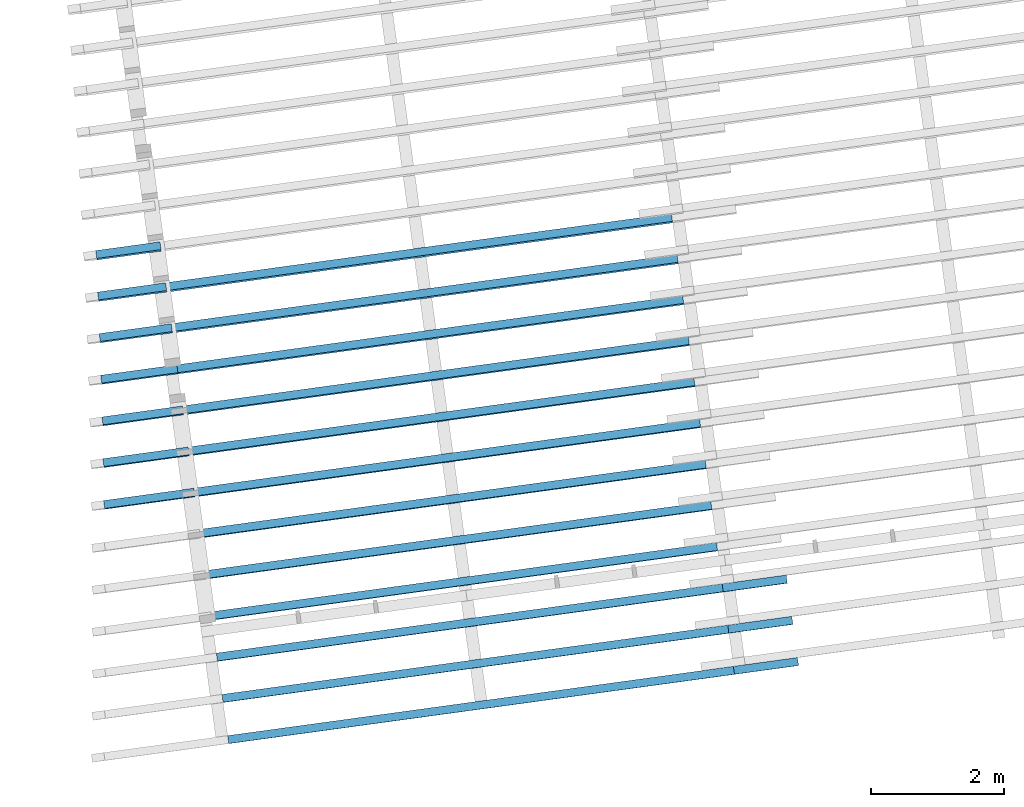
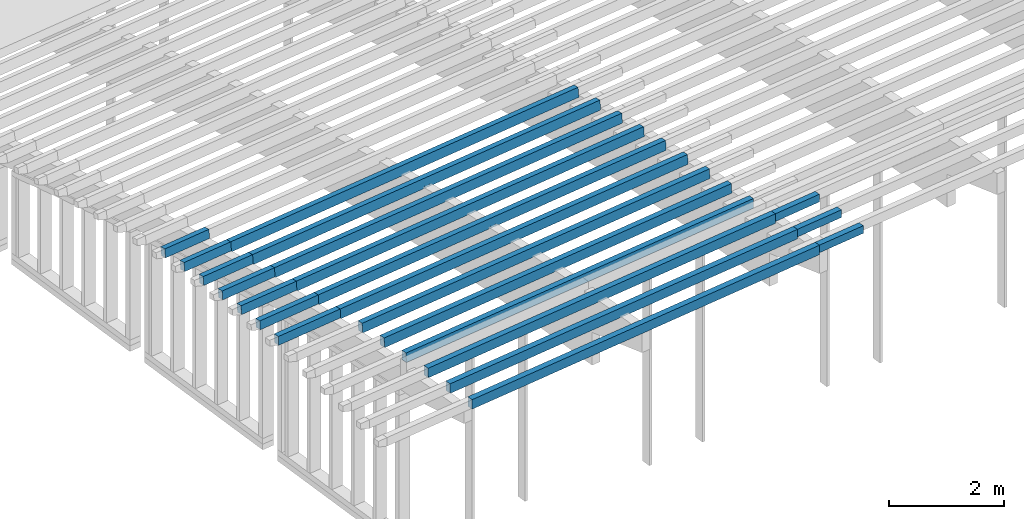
# One storey, part 6 of 18: 22 building element parts, 13 elements without a shape of their own.
"""IFC2X3 building model written with IfcOpenShell, lengths in metres."""

from ifc_helpers import new_model, entity, si_unit, converted_unit, derived_unit, money_unit, direction, frame, origin_with_axes, place, context, subcontext, project, spatial, faceted_brep, material, type_object, element, aggregate, save


model = new_model("IFC2X3")

# Units and contexts
model_context = context("Model", 3, precision=1e-05, world=origin_with_axes(), true_north=direction((0.0, 1.0)))
body_context = subcontext(model_context, "Body", "Model", "MODEL_VIEW")
ifc_project = project(units=[si_unit("LENGTHUNIT", "METRE"), si_unit("AREAUNIT", "SQUARE_METRE"), si_unit("VOLUMEUNIT", "CUBIC_METRE"), converted_unit("PLANEANGLEUNIT", "DEGREE", entity("IfcPlaneAngleMeasure", 0.0174532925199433), si_unit("PLANEANGLEUNIT", "RADIAN"), dimensions=[0, 0, 0, 0, 0, 0, 0]), money_unit("EUR"), converted_unit("TIMEUNIT", "Year", entity("IfcTimeMeasure", 31557600.0), si_unit("TIMEUNIT", "SECOND"), dimensions=[0, 0, 1, 0, 0, 0, 0]), si_unit("MASSUNIT", "GRAM", prefix="KILO"), si_unit("THERMODYNAMICTEMPERATUREUNIT", "DEGREE_CELSIUS"), si_unit("LUMINOUSINTENSITYUNIT", "LUMEN"), si_unit("ENERGYUNIT", "JOULE", prefix="MEGA"), derived_unit("THERMALCONDUCTANCEUNIT", [(si_unit("POWERUNIT", "WATT"), 1), (si_unit("LENGTHUNIT", "METRE"), -1), (si_unit("THERMODYNAMICTEMPERATUREUNIT", "KELVIN"), -1)]), derived_unit("SPECIFICHEATCAPACITYUNIT", [(si_unit("ENERGYUNIT", "JOULE"), 1), (si_unit("MASSUNIT", "GRAM", prefix="KILO"), -1), (si_unit("THERMODYNAMICTEMPERATUREUNIT", "KELVIN"), -1)]), derived_unit("MASSDENSITYUNIT", [(si_unit("MASSUNIT", "GRAM", prefix="KILO"), 1), (si_unit("VOLUMEUNIT", "CUBIC_METRE"), -1)])], contexts=[model_context])

# Site, building, storey
site_placement = place(None, origin_with_axes())
site = spatial("IfcSite", under=ifc_project, at=site_placement, Name="Gelände", CompositionType="ELEMENT")
building_placement = place(site_placement, origin_with_axes())
building = spatial("IfcBuilding", under=site, at=building_placement, Name="Gebäude", CompositionType="ELEMENT")
storey_placement = place(building_placement, frame((0.0, 0.0, 5.5), z_axis=(0.0, 0.0, 1.0), x_axis=(1.0, 0.0, 0.0)))
storey = spatial("IfcBuildingStorey", under=building, at=storey_placement, Name="OG", CompositionType="ELEMENT", Elevation=5.5)

# Beam, building element part
beam_type_1 = type_object("IfcBeamType", Name="Verschiedene Strukturen - 4 Segmente - 120 x 200 x 10342 (970+7659+1523+190)", PredefinedType="NOTDEFINED")
beam_1_placement = place(storey_placement, frame((95.08032866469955, -148.9629135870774, 4.912074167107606), z_axis=(0.0, 0.0, 1.0), x_axis=(-0.1357111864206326, 0.9907484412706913, 0.0)))
beam_1 = element("IfcBeam", 1, at=beam_1_placement, inside=storey, type_object=beam_type_1, Name="Unterzug-031")
ifc_material = material(Name="Bauholz")
building_element_part_1_placement = place(beam_1_placement, origin_with_axes())
building_element_part_1 = element("IfcBuildingElementPart", 2, at=building_element_part_1_placement, material=ifc_material, Name="Bauholz", context=body_context, shape_type="Brep", body=[
    faceted_brep([(0.05992836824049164, 8.629156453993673, -0.002930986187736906), (0.05992863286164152, 4.852805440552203, -0.002930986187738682), (0.05211229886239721, 4.852805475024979, -0.1627421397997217), (0.05211229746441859, 4.73280547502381, -0.1627421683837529), (0.05992810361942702, 4.732805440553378, -0.002930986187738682), (0.05992836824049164, 0.9700000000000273, -0.002930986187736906), (0.05015841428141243, 0.9700000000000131, -0.2026922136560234), (0.05015841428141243, 8.629156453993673, -0.2026922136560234), (-0.05992836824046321, 8.629156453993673, 0.002930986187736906), (-0.05992810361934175, 4.852803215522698, 0.00293098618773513), (-0.05992863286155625, 4.732803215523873, 0.00293098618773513), (-0.05992836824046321, 0.9699999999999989, 0.002930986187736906), (0.05141115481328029, 4.852805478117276, -0.1627041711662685), (0.05141062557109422, 4.732805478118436, -0.1627041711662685), (-0.06969832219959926, 0.9700000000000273, -0.1968302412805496), (-0.06969832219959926, 8.629156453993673, -0.1968302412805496), (-0.06774441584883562, 4.73280324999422, -0.1568797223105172), (-0.06774441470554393, 4.852803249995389, -0.1568796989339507), (-0.06743742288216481, 4.852803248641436, -0.1568932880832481), (-0.06743795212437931, 4.732803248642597, -0.1568932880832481)], [[[0, 1, 2, 3, 4, 5, 6, 7]], [[5, 4, 1, 0, 8, 9, 10, 11]], [[12, 2, 1]], [[13, 3, 2, 12]], [[13, 4, 3]], [[11, 14, 6, 5]], [[7, 6, 14, 15]], [[7, 15, 8, 0]], [[12, 1, 4, 13]], [[14, 11, 10, 16, 17, 9, 8, 15]], [[9, 18, 19, 10]], [[19, 16, 10]], [[17, 16, 19, 18]], [[18, 9, 17]]]),
])
aggregate(beam_1, [building_element_part_1])

beam_type_2 = type_object("IfcBeamType", Name="Verschiedene Strukturen - 4 Segmente - 120 x 200 x 10261 (970+7659+1442+190)", PredefinedType="NOTDEFINED")
beam_2_placement = place(storey_placement, frame((94.99560086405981, -148.3443651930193, 4.878264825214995), z_axis=(0.0, 0.0, 1.0), x_axis=(-0.1357111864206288, 0.9907484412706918, 0.0)))
beam_2 = element("IfcBeam", 3, at=beam_2_placement, inside=storey, type_object=beam_type_2, Name="Unterzug-031")
building_element_part_2_placement = place(beam_2_placement, origin_with_axes())
building_element_part_2 = element("IfcBuildingElementPart", 4, at=building_element_part_2_placement, material=ifc_material, Name="Bauholz", context=body_context, shape_type="Brep", body=[
    faceted_brep([(0.0598943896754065, 8.629156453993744, -0.00355838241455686), (0.05989465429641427, 4.85280543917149, -0.003558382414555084), (0.05040524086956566, 4.852805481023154, -0.1632789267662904), (0.05040523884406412, 4.732805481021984, -0.1632789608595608), (0.0598941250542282, 4.732805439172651, -0.003558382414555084), (0.0598943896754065, 0.9700000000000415, -0.00355838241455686), (0.04803311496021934, 0.9700000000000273, -0.2032063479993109), (0.04803311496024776, 8.629156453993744, -0.2032063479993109), (-0.05989438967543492, 8.629156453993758, 0.00355838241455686), (-0.05989412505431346, 4.852803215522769, 0.003558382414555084), (-0.05989465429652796, 4.732803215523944, 0.003558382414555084), (-0.05989438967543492, 0.9700000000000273, 0.00355838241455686), (0.04970372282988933, 4.852805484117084, -0.1632335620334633), (0.04970319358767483, 4.732805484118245, -0.1632335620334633), (-0.07175566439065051, 0.9700000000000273, -0.1960895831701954), (-0.07175566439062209, 8.629156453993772, -0.1960895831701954), (-0.06938354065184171, 4.732803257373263, -0.1561621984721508), (-0.06938353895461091, 4.852803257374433, -0.1561621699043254), (-0.06897938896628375, 4.852803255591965, -0.1561840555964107), (-0.06897991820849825, 4.732803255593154, -0.1561840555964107)], [[[0, 1, 2, 3, 4, 5, 6, 7]], [[5, 4, 1, 0, 8, 9, 10, 11]], [[12, 2, 1]], [[13, 3, 2, 12]], [[13, 4, 3]], [[11, 14, 6, 5]], [[7, 6, 14, 15]], [[7, 15, 8, 0]], [[12, 1, 4, 13]], [[14, 11, 10, 16, 17, 9, 8, 15]], [[9, 18, 19, 10]], [[19, 16, 10]], [[17, 16, 19, 18]], [[18, 9, 17]]]),
])
aggregate(beam_2, [building_element_part_2])

# Beam, building element parts
beam_type_3 = type_object("IfcBeamType", Name="Verschiedene Strukturen - 4 Segmente - 120 x 200 x 10184 (970+7659+1365+190)", PredefinedType="NOTDEFINED")
beam_3_placement = place(storey_placement, frame((94.91092517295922, -147.7261972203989, 4.837969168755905), z_axis=(0.0, 0.0, 1.0), x_axis=(-0.1357111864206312, 0.9907484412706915, 0.0)))
beam_3 = element("IfcBeam", 5, at=beam_3_placement, inside=storey, type_object=beam_type_3, Name="Unterzug-031")
building_element_part_3_placement = place(beam_3_placement, origin_with_axes())
building_element_part_3 = element("IfcBuildingElementPart", 6, at=building_element_part_3_placement, material=ifc_material, Name="Bauholz", context=body_context, shape_type="Brep", body=[
    faceted_brep([(0.05985747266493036, 8.62915645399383, -0.004133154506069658), (0.05985773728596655, 4.852805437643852, -0.004133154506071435), (0.04883556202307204, 4.852805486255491, -0.1637554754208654), (0.04883555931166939, 4.73280548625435, -0.1637555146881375), (0.05985720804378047, 4.732805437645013, -0.004133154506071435), (0.05985747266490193, 0.9699999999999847, -0.004133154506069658), (0.04608029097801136, 0.9699999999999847, -0.2036580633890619), (0.04608029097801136, 8.62915645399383, -0.2036580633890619), (-0.05985747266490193, 8.629156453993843, 0.004133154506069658), (-0.05985720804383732, 4.852803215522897, 0.004133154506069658), (-0.05985773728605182, 4.732803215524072, 0.004133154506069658), (-0.05985747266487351, 0.9699999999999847, 0.004133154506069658), (0.04809246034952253, 4.852805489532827, -0.1637000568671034), (0.04809193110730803, 4.732805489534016, -0.1637000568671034), (-0.07363465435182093, 0.9699999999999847, -0.1953917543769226), (-0.0736346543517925, 8.62915645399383, -0.1953917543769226), (-0.07087932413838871, 4.732803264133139, -0.1554883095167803), (-0.07087932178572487, 4.852803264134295, -0.1554882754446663), (-0.07061557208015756, 4.852803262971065, -0.1555053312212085), (-0.07061610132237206, 4.73280326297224, -0.1555053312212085)], [[[0, 1, 2, 3, 4, 5, 6, 7]], [[5, 4, 1, 0, 8, 9, 10, 11]], [[12, 2, 1]], [[13, 3, 2, 12]], [[13, 4, 3]], [[11, 14, 6, 5]], [[7, 6, 14, 15]], [[7, 15, 8, 0]], [[12, 1, 4, 13]], [[14, 11, 10, 16, 17, 9, 8, 15]], [[9, 18, 19, 10]], [[19, 16, 10]], [[17, 16, 19, 18]], [[18, 9, 17]]]),
])
building_element_part_4_placement = place(beam_3_placement, origin_with_axes())
building_element_part_4 = element("IfcBuildingElementPart", 7, at=building_element_part_4_placement, material=ifc_material, Name="Bauholz", context=body_context, shape_type="Brep", body=[
    faceted_brep([(-0.05985747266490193, 8.629156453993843, 0.004133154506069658), (0.05985747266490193, 8.629156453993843, -0.004133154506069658), (0.05985747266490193, 9.993783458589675, -0.004133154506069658), (-0.05985747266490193, 9.993783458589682, 0.004133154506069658), (-0.07225693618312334, 8.629156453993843, -0.1754392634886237), (0.04745800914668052, 8.629156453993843, -0.183705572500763), (0.0474580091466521, 9.993783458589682, -0.183705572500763), (-0.07225693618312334, 9.993783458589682, -0.1754392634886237)], [[[0, 1, 2, 3]], [[4, 5, 1, 0]], [[1, 5, 6, 2]], [[7, 3, 2, 6]], [[4, 0, 3, 7]], [[5, 4, 7, 6]]]),
])
aggregate(beam_3, [building_element_part_3, building_element_part_4])

beam_type_4 = type_object("IfcBeamType", Name="Verschiedene Strukturen - 4 Segmente - 120 x 200 x 10110 (970+7659+1291+190)", PredefinedType="NOTDEFINED")
beam_4_placement = place(storey_placement, frame((94.82630850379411, -147.1084601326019, 4.791438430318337), z_axis=(0.0, 0.0, 1.0), x_axis=(-0.1357111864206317, 0.9907484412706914, 0.0)))
beam_4 = element("IfcBeam", 8, at=beam_4_placement, inside=storey, type_object=beam_type_4, Name="Unterzug-031")
building_element_part_5_placement = place(beam_4_placement, origin_with_axes())
building_element_part_5 = element("IfcBuildingElementPart", 9, at=building_element_part_5_placement, material=ifc_material, Name="Bauholz", context=body_context, shape_type="Brep", body=[
    faceted_brep([(0.05980589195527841, 8.629156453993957, -0.004822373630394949), (0.05980615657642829, 4.852805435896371, -0.004822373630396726), (0.04694613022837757, 4.852805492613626, -0.1643059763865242), (0.04694612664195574, 4.732805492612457, -0.1643060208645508), (0.05980562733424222, 4.732805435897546, -0.004822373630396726), (0.05980589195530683, 0.9699999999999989, -0.004822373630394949), (0.04373131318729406, 0.9699999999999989, -0.2041753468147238), (0.04373131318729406, 8.629156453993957, -0.2041753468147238), (-0.05980589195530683, 8.629156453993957, 0.004822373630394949), (-0.05980562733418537, 4.852803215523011, 0.004822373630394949), (-0.05980615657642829, 4.732803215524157, 0.004822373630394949), (-0.05980589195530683, 0.9700000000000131, 0.004822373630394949), (0.04645001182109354, 4.852805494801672, -0.1642639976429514), (0.04644948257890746, 4.732805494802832, -0.1642639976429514), (-0.07588047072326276, 0.9699999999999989, -0.1945305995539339), (-0.07588047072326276, 8.629156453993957, -0.1945305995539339), (-0.07266578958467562, 4.732803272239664, -0.1546629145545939), (-0.07266578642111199, 4.852803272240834, -0.1546628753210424), (-0.07213794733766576, 4.852803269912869, -0.1547022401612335), (-0.07213847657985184, 4.732803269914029, -0.1547022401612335)], [[[0, 1, 2, 3, 4, 5, 6, 7]], [[5, 4, 1, 0, 8, 9, 10, 11]], [[12, 2, 1]], [[13, 3, 2, 12]], [[13, 4, 3]], [[11, 14, 6, 5]], [[7, 6, 14, 15]], [[7, 15, 8, 0]], [[12, 1, 4, 13]], [[14, 11, 10, 16, 17, 9, 8, 15]], [[9, 18, 19, 10]], [[19, 16, 10]], [[17, 16, 19, 18]], [[18, 9, 17]]]),
])
building_element_part_6_placement = place(beam_4_placement, origin_with_axes())
building_element_part_6 = element("IfcBuildingElementPart", 10, at=building_element_part_6_placement, material=ifc_material, Name="Bauholz", context=body_context, shape_type="Brep", body=[
    faceted_brep([(-0.05980589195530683, 8.629156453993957, 0.004822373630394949), (0.05980589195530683, 8.629156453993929, -0.004822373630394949), (0.05980589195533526, 9.919935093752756, -0.004822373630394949), (-0.05980589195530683, 9.919935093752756, 0.004822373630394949), (-0.0742730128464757, 8.629156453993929, -0.1745953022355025), (0.04533877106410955, 8.629156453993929, -0.1842400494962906), (0.04533877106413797, 9.919935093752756, -0.1842400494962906), (-0.07427301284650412, 9.919935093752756, -0.1745953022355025)], [[[0, 1, 2, 3]], [[4, 5, 1, 0]], [[1, 5, 6, 2]], [[7, 3, 2, 6]], [[4, 0, 3, 7]], [[5, 4, 7, 6]]]),
])
aggregate(beam_4, [building_element_part_5, building_element_part_6])

beam_type_5 = type_object("IfcBeamType", Name="Verschiedene Strukturen - 4 Segmente - 120 x 200 x 10040 (970+7659+1220+190)", PredefinedType="NOTDEFINED")
beam_5_placement = place(storey_placement, frame((94.74175862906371, -146.4912106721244, 4.738673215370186), z_axis=(0.0, 0.0, 1.0), x_axis=(-0.1357111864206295, 0.9907484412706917, 0.0)))
beam_5 = element("IfcBeam", 11, at=beam_5_placement, inside=storey, type_object=beam_type_5, Name="Unterzug-031")
building_element_part_7_placement = place(beam_5_placement, origin_with_axes())
building_element_part_7 = element("IfcBuildingElementPart", 12, at=building_element_part_7_placement, material=ifc_material, Name="Bauholz", context=body_context, shape_type="Brep", body=[
    faceted_brep([(-0.05976153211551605, 8.629156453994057, 0.005344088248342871), (0.05976153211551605, 8.629156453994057, -0.005344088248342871), (0.05976153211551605, 9.849566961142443, -0.005344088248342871), (-0.05976153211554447, 9.849566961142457, 0.005344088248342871), (-0.07579379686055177, 8.629156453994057, -0.173940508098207), (0.04372926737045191, 8.629156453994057, -0.1846286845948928), (0.04372926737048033, 9.849566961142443, -0.1846286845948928), (-0.07579379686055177, 9.849566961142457, -0.173940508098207)], [[[0, 1, 2, 3]], [[4, 5, 1, 0]], [[1, 5, 6, 2]], [[7, 3, 2, 6]], [[4, 0, 3, 7]], [[5, 4, 7, 6]]]),
])
building_element_part_8_placement = place(beam_5_placement, origin_with_axes())
building_element_part_8 = element("IfcBuildingElementPart", 13, at=building_element_part_8_placement, material=ifc_material, Name="Bauholz", context=body_context, shape_type="Brep", body=[
    faceted_brep([(0.05976153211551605, 8.629156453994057, -0.005344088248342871), (0.05976179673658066, 4.852805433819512, -0.005344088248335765), (0.04551040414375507, 4.85280549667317, -0.1647107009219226), (0.0455103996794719, 4.732805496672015, -0.1647107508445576), (0.05976126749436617, 4.732805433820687, -0.005344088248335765), (0.05976153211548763, 0.9699999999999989, -0.005344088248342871), (0.04194790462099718, 0.9699999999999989, -0.204549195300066), (0.04194790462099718, 8.629156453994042, -0.204549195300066), (-0.05976153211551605, 8.629156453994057, 0.005344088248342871), (-0.05976126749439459, 4.85280321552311, 0.005344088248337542), (-0.05976179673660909, 4.732803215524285, 0.005344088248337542), (-0.05976153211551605, 0.9699999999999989, 0.005344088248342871), (0.04474307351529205, 4.852805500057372, -0.1646377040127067), (0.04474254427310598, 4.732805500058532, -0.1646377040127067), (-0.0775751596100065, 0.9699999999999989, -0.1938610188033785), (-0.0775751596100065, 8.629156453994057, -0.1938610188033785), (-0.07401259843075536, 4.732803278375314, -0.1540218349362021), (-0.07401259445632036, 4.85280327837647, -0.1540217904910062), (-0.07368400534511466, 4.852803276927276, -0.1540495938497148), (-0.07368453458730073, 4.73280327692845, -0.1540495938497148)], [[[0, 1, 2, 3, 4, 5, 6, 7]], [[5, 4, 1, 0, 8, 9, 10, 11]], [[12, 2, 1]], [[13, 3, 2, 12]], [[13, 4, 3]], [[11, 14, 6, 5]], [[7, 6, 14, 15]], [[7, 15, 8, 0]], [[12, 1, 4, 13]], [[14, 11, 10, 16, 17, 9, 8, 15]], [[9, 18, 19, 10]], [[19, 16, 10]], [[17, 16, 19, 18]], [[18, 9, 17]]]),
])
aggregate(beam_5, [building_element_part_7, building_element_part_8])

beam_type_6 = type_object("IfcBeamType", Name="Verschiedene Strukturen - 4 Segmente - 120 x 200 x 9973 (970+7659+1154+190)", PredefinedType="NOTDEFINED")
beam_6_placement = place(storey_placement, frame((94.65728644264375, -145.8745283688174, 4.679531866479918), z_axis=(0.0, 0.0, 1.0), x_axis=(-0.1357111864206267, 0.9907484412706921, 0.0)))
beam_6 = element("IfcBeam", 14, at=beam_6_placement, inside=storey, type_object=beam_type_6, Name="Unterzug-031")
building_element_part_9_placement = place(beam_6_placement, origin_with_axes())
building_element_part_9 = element("IfcBuildingElementPart", 15, at=building_element_part_9_placement, material=ifc_material, Name="Bauholz", context=body_context, shape_type="Brep", body=[
    faceted_brep([(-0.05970437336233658, 8.629156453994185, 0.005948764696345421), (0.05970437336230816, 8.62915645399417, -0.005948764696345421), (0.05970437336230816, 9.782671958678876, -0.005948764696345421), (-0.05970437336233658, 9.782671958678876, 0.005948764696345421), (-0.07755066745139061, 8.629156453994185, -0.1731643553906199), (0.04185807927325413, 8.629156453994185, -0.1850618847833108), (0.04185807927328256, 9.782671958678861, -0.1850618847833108), (-0.07755066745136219, 9.782671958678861, -0.1731643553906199)], [[[0, 1, 2, 3]], [[4, 5, 1, 0]], [[1, 5, 6, 2]], [[7, 3, 2, 6]], [[4, 0, 3, 7]], [[5, 4, 7, 6]]]),
])
building_element_part_10_placement = place(beam_6_placement, origin_with_axes())
building_element_part_10 = element("IfcBuildingElementPart", 16, at=building_element_part_10_placement, material=ifc_material, Name="Bauholz", context=body_context, shape_type="Brep", body=[
    faceted_brep([(0.05970437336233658, 8.629156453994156, -0.005948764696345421), (0.05970463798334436, 4.852805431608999, -0.005948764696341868), (0.04384075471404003, 4.852805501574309, -0.1651628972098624), (0.04384074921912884, 4.732805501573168, -0.1651629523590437), (0.05970410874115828, 4.73280543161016, -0.005948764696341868), (0.05970437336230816, 0.9699999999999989, -0.005948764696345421), (0.03987515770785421, 0.9699999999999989, -0.2049633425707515), (0.03987515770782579, 8.629156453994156, -0.2049633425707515), (-0.05970437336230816, 8.629156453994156, 0.005948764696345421), (-0.05970410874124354, 4.852803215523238, 0.005948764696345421), (-0.05970463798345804, 4.732803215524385, 0.005948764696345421), (-0.05970437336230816, 0.9700000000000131, 0.005948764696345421), (0.0430833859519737, 4.852805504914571, -0.1650831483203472), (0.0430828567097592, 4.732805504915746, -0.1650831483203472), (-0.07953358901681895, 0.9699999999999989, -0.1930658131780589), (-0.07953358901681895, 8.629156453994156, -0.1930658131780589), (-0.0755679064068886, 4.73280328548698, -0.1532645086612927), (-0.07556790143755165, 4.852803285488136, -0.1532644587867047), (-0.07528889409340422, 4.852803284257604, -0.1532910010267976), (-0.07528942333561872, 4.732803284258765, -0.1532910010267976)], [[[0, 1, 2, 3, 4, 5, 6, 7]], [[5, 4, 1, 0, 8, 9, 10, 11]], [[12, 2, 1]], [[13, 3, 2, 12]], [[13, 4, 3]], [[11, 14, 6, 5]], [[7, 6, 14, 15]], [[7, 15, 8, 0]], [[12, 1, 4, 13]], [[14, 11, 10, 16, 17, 9, 8, 15]], [[9, 18, 19, 10]], [[19, 16, 10]], [[17, 16, 19, 18]], [[18, 9, 17]]]),
])
aggregate(beam_6, [building_element_part_9, building_element_part_10])

beam_type_7 = type_object("IfcBeamType", Name="Verschiedene Strukturen - 4 Segmente - 120 x 200 x 9909 (970+7659+1090+190)", PredefinedType="NOTDEFINED")
beam_7_placement = place(storey_placement, frame((94.57289909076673, -145.2584653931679, 4.614089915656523), z_axis=(0.0, 0.0, 1.0), x_axis=(-0.135711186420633, 0.9907484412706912, 0.0)))
beam_7 = element("IfcBeam", 17, at=beam_7_placement, inside=storey, type_object=beam_type_7, Name="Unterzug-031")
building_element_part_11_placement = place(beam_7_placement, origin_with_axes())
building_element_part_11 = element("IfcBuildingElementPart", 18, at=building_element_part_11_placement, material=ifc_material, Name="Bauholz", context=body_context, shape_type="Brep", body=[
    faceted_brep([(0.05963765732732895, 8.629139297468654, -0.006584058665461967), (0.05963792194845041, 4.852805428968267, -0.006584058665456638), (0.04207993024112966, 4.85280550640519, -0.1656199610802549), (0.04207992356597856, 4.732805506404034, -0.1656200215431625), (0.05963739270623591, 4.732805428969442, -0.006584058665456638), (0.05963765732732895, 0.9699999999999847, -0.006584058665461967), (0.03769079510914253, 0.9699999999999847, -0.2053762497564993), (0.03769079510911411, 8.629139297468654, -0.2053762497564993), (-0.05963765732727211, 8.629139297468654, 0.006584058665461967), (-0.05963739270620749, 4.852803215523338, 0.006584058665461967), (-0.05963792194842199, 4.732803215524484, 0.006584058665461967), (-0.05963765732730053, 0.9699999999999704, 0.006584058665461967), (0.04138156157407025, 4.852805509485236, -0.1655391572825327), (0.04138103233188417, 4.732805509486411, -0.1655391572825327), (-0.08158451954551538, 0.9699999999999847, -0.1922081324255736), (-0.08158451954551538, 8.629139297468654, -0.1922081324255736), (-0.07719537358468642, 4.732803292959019, -0.1524517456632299), (-0.07719536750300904, 4.852803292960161, -0.1524516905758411), (-0.07682413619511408, 4.852803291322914, -0.1524907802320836), (-0.07682466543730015, 4.732803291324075, -0.1524907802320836)], [[[0, 1, 2, 3, 4, 5, 6, 7]], [[5, 4, 1, 0, 8, 9, 10, 11]], [[12, 2, 1]], [[13, 3, 2, 12]], [[13, 4, 3]], [[11, 14, 6, 5]], [[7, 6, 14, 15]], [[7, 15, 8, 0]], [[12, 1, 4, 13]], [[14, 11, 10, 16, 17, 9, 8, 15]], [[9, 18, 19, 10]], [[19, 16, 10]], [[17, 16, 19, 18]], [[18, 9, 17]]]),
])
building_element_part_12_placement = place(beam_7_placement, origin_with_axes())
building_element_part_12 = element("IfcBuildingElementPart", 19, at=building_element_part_12_placement, material=ifc_material, Name="Bauholz", context=body_context, shape_type="Brep", body=[
    faceted_brep([(-0.05963765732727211, 8.629139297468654, 0.006584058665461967), (0.05963765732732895, 8.629139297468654, -0.006584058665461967), (0.05963765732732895, 9.719241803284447, -0.006584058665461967), (-0.05963765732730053, 9.719241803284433, 0.006584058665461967), (-0.07938983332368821, 8.629139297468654, -0.1723289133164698), (0.0398854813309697, 8.629139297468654, -0.1854970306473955), (0.03988548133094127, 9.719241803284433, -0.1854970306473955), (-0.07938983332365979, 9.719241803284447, -0.1723289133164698)], [[[0, 1, 2, 3]], [[4, 5, 1, 0]], [[1, 5, 6, 2]], [[7, 3, 2, 6]], [[4, 0, 3, 7]], [[5, 4, 7, 6]]]),
])
aggregate(beam_7, [building_element_part_11, building_element_part_12])

beam_type_8 = type_object("IfcBeamType", Name="Verschiedene Strukturen - 4 Segmente - 120 x 200 x 9849 (970+7659+1030+190)", PredefinedType="NOTDEFINED")
beam_8_placement = place(storey_placement, frame((94.4886111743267, -144.6431283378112, 4.54227047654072), z_axis=(0.0, 0.0, 1.0), x_axis=(-0.1357111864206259, 0.9907484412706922, 0.0)))
beam_8 = element("IfcBeam", 20, at=beam_8_placement, inside=storey, type_object=beam_type_8, Name="Unterzug-031")
building_element_part_13_placement = place(beam_8_placement, origin_with_axes())
building_element_part_13 = element("IfcBuildingElementPart", 21, at=building_element_part_13_placement, material=ifc_material, Name="Bauholz", context=body_context, shape_type="Brep", body=[
    faceted_brep([(0.05957045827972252, 8.629139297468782, -0.007166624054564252), (0.05957072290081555, 4.852805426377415, -0.007166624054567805), (0.04045918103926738, 4.852805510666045, -0.1660235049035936), (0.04045917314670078, 4.732805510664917, -0.1660235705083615), (0.05957019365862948, 4.732805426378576, -0.007166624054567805), (0.05957045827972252, 0.9700000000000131, -0.007166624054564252), (0.03568171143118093, 0.9700000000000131, -0.2057348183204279), (0.03568171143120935, 8.629139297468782, -0.2057348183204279), (-0.05957045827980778, 8.629139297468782, 0.007166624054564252), (-0.05957019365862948, 4.852803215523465, 0.007166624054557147), (-0.05957072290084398, 4.732803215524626, 0.007166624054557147), (-0.05957045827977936, 0.9700000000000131, 0.007166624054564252), (0.03972781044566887, 4.852805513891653, -0.165931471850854), (0.03972728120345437, 4.732805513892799, -0.165931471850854), (-0.08345920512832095, 0.9700000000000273, -0.1914015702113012), (-0.08345920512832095, 8.629139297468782, -0.1914015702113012), (-0.07868165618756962, 4.732803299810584, -0.1516895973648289), (-0.0786816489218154, 4.852803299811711, -0.1516895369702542), (-0.07839140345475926, 4.852803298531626, -0.1517231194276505), (-0.07839193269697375, 4.732803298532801, -0.1517231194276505)], [[[0, 1, 2, 3, 4, 5, 6, 7]], [[5, 4, 1, 0, 8, 9, 10, 11]], [[12, 2, 1]], [[13, 3, 2, 12]], [[13, 4, 3]], [[11, 14, 6, 5]], [[7, 6, 14, 15]], [[7, 15, 8, 0]], [[12, 1, 4, 13]], [[14, 11, 10, 16, 17, 9, 8, 15]], [[9, 18, 19, 10]], [[19, 16, 10]], [[17, 16, 19, 18]], [[18, 9, 17]]]),
])
building_element_part_14_placement = place(beam_8_placement, origin_with_axes())
building_element_part_14 = element("IfcBuildingElementPart", 22, at=building_element_part_14_placement, material=ifc_material, Name="Bauholz", context=body_context, shape_type="Brep", body=[
    faceted_brep([(-0.05957045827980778, 8.629139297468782, 0.007166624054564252), (0.05957045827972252, 8.629139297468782, -0.007166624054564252), (0.05957045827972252, 9.659267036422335, -0.007166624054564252), (-0.05957045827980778, 9.659267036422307, 0.007166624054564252), (-0.081070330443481, 8.629139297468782, -0.1715447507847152), (0.03807058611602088, 8.629139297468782, -0.1858779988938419), (0.03807058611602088, 9.659267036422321, -0.1858779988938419), (-0.081070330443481, 9.659267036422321, -0.1715447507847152)], [[[0, 1, 2, 3]], [[4, 5, 1, 0]], [[1, 5, 6, 2]], [[7, 3, 2, 6]], [[4, 0, 3, 7]], [[5, 4, 7, 6]]]),
])
aggregate(beam_8, [building_element_part_13, building_element_part_14])

# Beam, building element part
beam_type_9 = type_object("IfcBeamType", Name="Verschiedene Strukturen - 4 Segmente - 120 x 200 x 9793 (970+7659+974+190)", PredefinedType="NOTDEFINED")
beam_9_placement = place(storey_placement, frame((94.40442273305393, -144.0285174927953, 4.46423359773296), z_axis=(0.0, 0.0, 1.0), x_axis=(-0.1357111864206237, 0.9907484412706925, 0.0)))
beam_9 = element("IfcBeam", 23, at=beam_9_placement, inside=storey, type_object=beam_type_9, Name="Unterzug-031")
building_element_part_15_placement = place(beam_9_placement, origin_with_axes())
building_element_part_15 = element("IfcBuildingElementPart", 24, at=building_element_part_15_placement, material=ifc_material, Name="Bauholz", context=body_context, shape_type="Brep", body=[
    faceted_brep([(-0.05949214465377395, 8.629139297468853, 0.00779004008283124), (0.05949214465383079, 8.629139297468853, -0.00779004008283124), (0.05949214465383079, 9.602737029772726, -0.00779004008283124), (-0.05949214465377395, 9.60273702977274, 0.00779004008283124), (-0.08286226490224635, 8.629139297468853, -0.1706863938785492), (0.03612202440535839, 8.629139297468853, -0.1862664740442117), (0.03612202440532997, 9.602737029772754, -0.1862664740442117), (-0.08286226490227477, 9.60273702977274, -0.1706863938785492)], [[[0, 1, 2, 3]], [[4, 5, 1, 0]], [[1, 5, 6, 2]], [[7, 3, 2, 6]], [[4, 0, 3, 7]], [[5, 4, 7, 6]]]),
])
aggregate(beam_9, [building_element_part_15])

# Beam, building element parts
beam_type_10 = type_object("IfcBeamType", Name="Verschiedene Strukturen - 4 Segmente - 120 x 200 x 10509 (970+7659+1690+190)", PredefinedType="NOTDEFINED")
beam_10_placement = place(storey_placement, frame((95.24989773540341, -150.2008387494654, 4.960992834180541), z_axis=(0.0, 0.0, 1.0), x_axis=(-0.1357111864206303, 0.9907484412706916, 0.0)))
beam_10 = element("IfcBeam", 25, at=beam_10_placement, inside=storey, type_object=beam_type_10, Name="Unterzug-031")
building_element_part_16_placement = place(beam_10_placement, origin_with_axes())
building_element_part_16 = element("IfcBuildingElementPart", 26, at=building_element_part_16_placement, material=ifc_material, Name="Bauholz", context=body_context, shape_type="Brep", body=[
    faceted_brep([(0.05997481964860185, 0.0, -0.001738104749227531), (0.05997481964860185, 0.9700000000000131, -0.001738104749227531), (-0.05997481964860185, 0.9700000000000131, 0.001738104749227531), (-0.05997481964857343, 0.0, 0.001738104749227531), (0.0553398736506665, 0.0, -0.1616709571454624), (0.0553398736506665, 0.9700000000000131, -0.1616709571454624), (-0.0646097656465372, 0.9700000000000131, -0.1581947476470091), (-0.0646097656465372, 0.0, -0.1581947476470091)], [[[0, 1, 2, 3]], [[4, 5, 1, 0]], [[2, 1, 5, 6]], [[3, 2, 6, 7]], [[4, 0, 3, 7]], [[7, 6, 5, 4]]]),
])
building_element_part_17_placement = place(beam_10_placement, origin_with_axes())
building_element_part_17 = element("IfcBuildingElementPart", 27, at=building_element_part_17_placement, material=ifc_material, Name="Bauholz", context=body_context, shape_type="Brep", body=[
    faceted_brep([(0.05997481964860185, 0.9699999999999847, -0.001738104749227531), (0.05997481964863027, 8.629164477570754, -0.001738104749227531), (-0.05997481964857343, 8.629164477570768, 0.001738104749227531), (-0.05997481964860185, 0.9699999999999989, 0.001738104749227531), (0.05418113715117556, 0.9699999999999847, -0.201654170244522), (0.05418113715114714, 8.629164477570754, -0.201654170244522), (-0.06576850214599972, 8.629164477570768, -0.198177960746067), (-0.06576850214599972, 0.9699999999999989, -0.198177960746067)], [[[0, 1, 2, 3]], [[4, 5, 1, 0]], [[2, 1, 5, 6]], [[3, 2, 6, 7]], [[4, 0, 3, 7]], [[7, 6, 5, 4]]]),
])
aggregate(beam_10, [building_element_part_16, building_element_part_17])

beam_type_11 = type_object("IfcBeamType", Name="Verschiedene Strukturen - 4 Segmente - 120 x 200 x 10600 (970+7659+1781+190)", PredefinedType="NOTDEFINED")
beam_11_placement = place(storey_placement, frame((95.33472849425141, -150.8201387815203, 4.975930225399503), z_axis=(0.0, 0.0, 1.0), x_axis=(-0.1357111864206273, 0.990748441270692, 0.0)))
beam_11 = element("IfcBeam", 28, at=beam_11_placement, inside=storey, type_object=beam_type_11, Name="Unterzug-031")
building_element_part_18_placement = place(beam_11_placement, origin_with_axes())
building_element_part_18 = element("IfcBuildingElementPart", 29, at=building_element_part_18_placement, material=ifc_material, Name="Bauholz", context=body_context, shape_type="Brep", body=[
    faceted_brep([(0.05999011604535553, 0.0, -0.001089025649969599), (0.05999011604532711, 0.9699999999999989, -0.001089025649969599), (-0.05999011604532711, 0.9699999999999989, 0.001089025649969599), (-0.05999011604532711, 0.0, 0.001089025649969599), (0.05708604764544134, 0.0, -0.16106266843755), (0.05708604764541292, 0.9699999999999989, -0.16106266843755), (-0.06289418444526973, 0.9699999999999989, -0.1588846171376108), (-0.06289418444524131, 0.0, -0.1588846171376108)], [[[0, 1, 2, 3]], [[4, 5, 1, 0]], [[2, 1, 5, 6]], [[3, 2, 6, 7]], [[4, 0, 3, 7]], [[7, 6, 5, 4]]]),
])
building_element_part_19_placement = place(beam_11_placement, origin_with_axes())
building_element_part_19 = element("IfcBuildingElementPart", 30, at=building_element_part_19_placement, material=ifc_material, Name="Bauholz", context=body_context, shape_type="Brep", body=[
    faceted_brep([(0.05999011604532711, 0.9699999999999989, -0.001089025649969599), (0.05999011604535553, 8.629164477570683, -0.001089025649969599), (-0.05999011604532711, 8.629164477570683, 0.001089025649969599), (-0.05999011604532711, 0.9699999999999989, 0.001089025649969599), (0.05636003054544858, 0.9699999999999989, -0.201056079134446), (0.05636003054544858, 8.629164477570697, -0.201056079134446), (-0.06362020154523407, 8.629164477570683, -0.1988780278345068), (-0.06362020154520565, 0.9699999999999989, -0.1988780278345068)], [[[0, 1, 2, 3]], [[4, 5, 1, 0]], [[2, 1, 5, 6]], [[3, 2, 6, 7]], [[4, 0, 3, 7]], [[7, 6, 5, 4]]]),
])
aggregate(beam_11, [building_element_part_18, building_element_part_19])

beam_type_12 = type_object("IfcBeamType", Name="Verschiedene Strukturen - 4 Segmente - 120 x 200 x 10694 (970+7659+1875+190)", PredefinedType="NOTDEFINED")
beam_12_placement = place(storey_placement, frame((95.419430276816, -151.4384972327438, 4.984403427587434), z_axis=(0.0, 0.0, 1.0), x_axis=(-0.1357111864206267, 0.9907484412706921, 0.0)))
beam_12 = element("IfcBeam", 31, at=beam_12_placement, inside=storey, type_object=beam_type_12, Name="Unterzug-031")
building_element_part_20_placement = place(beam_12_placement, origin_with_axes())
building_element_part_20 = element("IfcBuildingElementPart", 32, at=building_element_part_20_placement, material=ifc_material, Name="Bauholz", context=body_context, shape_type="Brep", body=[
    faceted_brep([(0.05999703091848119, 0.0, -0.0005968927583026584), (0.05999703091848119, 0.9700000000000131, -0.0005968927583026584), (-0.05999703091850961, 0.9699999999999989, 0.0005968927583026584), (-0.05999703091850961, 0.0, 0.0005968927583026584), (0.05840531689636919, 0.0, -0.1605889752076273), (0.05840531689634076, 0.9699999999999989, -0.1605889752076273), (-0.06158874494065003, 0.9700000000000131, -0.1593951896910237), (-0.06158874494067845, 0.0, -0.1593951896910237)], [[[0, 1, 2, 3]], [[4, 5, 1, 0]], [[2, 1, 5, 6]], [[3, 2, 6, 7]], [[4, 0, 3, 7]], [[7, 6, 5, 4]]]),
])
building_element_part_21_placement = place(beam_12_placement, origin_with_axes())
building_element_part_21 = element("IfcBuildingElementPart", 33, at=building_element_part_21_placement, material=ifc_material, Name="Bauholz", context=body_context, shape_type="Brep", body=[
    faceted_brep([(0.05999703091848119, 0.9699999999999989, -0.0005968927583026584), (0.05999703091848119, 8.62916447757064, -0.0005968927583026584), (-0.05999703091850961, 8.62916447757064, 0.0005968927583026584), (-0.05999703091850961, 0.9699999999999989, 0.0005968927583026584), (0.05800738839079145, 0.9699999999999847, -0.2005869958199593), (0.05800738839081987, 8.62916447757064, -0.2005869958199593), (-0.06198667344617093, 8.62916447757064, -0.199393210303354), (-0.06198667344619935, 0.9699999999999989, -0.199393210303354)], [[[0, 1, 2, 3]], [[4, 5, 1, 0]], [[2, 1, 5, 6]], [[3, 2, 6, 7]], [[4, 0, 3, 7]], [[7, 6, 5, 4]]]),
])
aggregate(beam_12, [building_element_part_20, building_element_part_21])

# Beam, building element part
beam_type_13 = type_object("IfcBeamType", Name="Verschiedene Strukturen - 4 Segmente - 120 x 200 x 10426 (970+7659+1607+190)", PredefinedType="NOTDEFINED")
beam_13_placement = place(storey_placement, frame((95.1650979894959, -149.5817651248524, 4.939661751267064), z_axis=(0.0, 0.0, 1.0), x_axis=(-0.1357111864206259, 0.9907484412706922, 0.0)))
beam_13 = element("IfcBeam", 34, at=beam_13_placement, inside=storey, type_object=beam_type_13, Name="Unterzug-031")
building_element_part_22_placement = place(beam_13_placement, origin_with_axes())
building_element_part_22 = element("IfcBuildingElementPart", 35, at=building_element_part_22_placement, material=ifc_material, Name="Bauholz", context=body_context, shape_type="Brep", body=[
    faceted_brep([(0.05995537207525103, 8.629156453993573, -0.002313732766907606), (0.05995563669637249, 4.852805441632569, -0.002313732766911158), (0.0537853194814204, 4.852805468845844, -0.1621972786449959), (0.0537853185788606, 4.73280546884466, -0.1621973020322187), (0.059955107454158, 4.732805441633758, -0.002313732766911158), (0.05995537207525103, 0.9700000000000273, -0.002313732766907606), (0.0522429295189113, 0.9700000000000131, -0.202164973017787), (0.05224292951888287, 8.629156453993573, -0.202164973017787), (-0.05995537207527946, 8.629156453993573, 0.002313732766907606), (-0.05995537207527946, 0.9699999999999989, 0.002313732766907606), (0.05301437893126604, 4.852805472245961, -0.1621631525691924), (0.05301384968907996, 4.732805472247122, -0.1621631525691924), (-0.06766781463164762, 0.9699999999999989, -0.1975375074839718), (-0.06766781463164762, 8.629156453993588, -0.1975375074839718)], [[[0, 1, 2, 3, 4, 5, 6, 7]], [[5, 4, 1, 0, 8, 9]], [[10, 2, 1]], [[11, 3, 2, 10]], [[11, 4, 3]], [[5, 9, 12, 6]], [[13, 7, 6, 12]], [[0, 7, 13, 8]], [[10, 1, 4, 11]], [[8, 13, 12, 9]]]),
])
aggregate(beam_13, [building_element_part_22])

save(model, "model.ifc")
